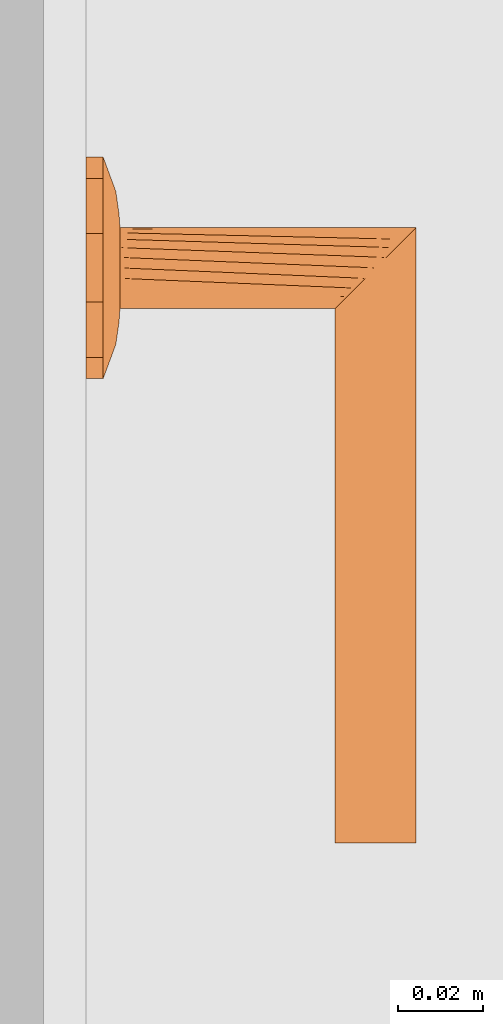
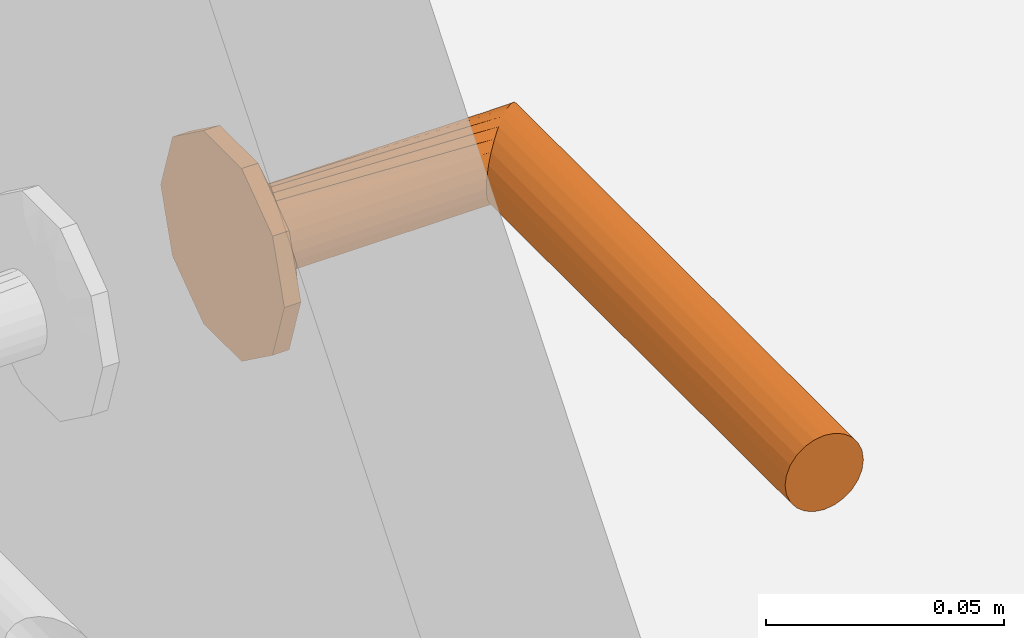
# One storey, part 106 of 125: 1 proxy.
"""IFC2X3 building model written with IfcOpenShell, lengths in millimetres."""

from ifc_helpers import new_model, entity, si_unit, converted_unit, direction, frame, origin, place, context, subcontext, project, spatial, faceted_brep, source, transform, mapped, material, type_object, type_shapes, element, save


model = new_model("IFC2X3")

# Units and contexts
model_context = context("Model", 3, precision=0.01, world=origin(), true_north=direction((6.123233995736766e-17, 1.0)))
plan_context = context("Plan", 3, precision=0.01, world=origin(), true_north=direction((6.123233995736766e-17, 1.0)))
body_context = subcontext(model_context, "Body", "Model", "MODEL_VIEW")
ifc_project = project(units=[si_unit("LENGTHUNIT", "METRE", prefix="MILLI"), converted_unit("PLANEANGLEUNIT", "DEGREE", entity("IfcPlaneAngleMeasure", 0.017453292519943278), si_unit("PLANEANGLEUNIT", "RADIAN"), dimensions=[0, 0, 0, 0, 0, 0, 0]), si_unit("AREAUNIT", "SQUARE_METRE")], contexts=[model_context, plan_context])

# Site, building, storey, space
site_placement = place(None, origin())
site = spatial("IfcSite", under=ifc_project, at=site_placement, Name="Default", CompositionType="ELEMENT")
building_placement = place(site_placement, origin())
building = spatial("IfcBuilding", under=site, at=building_placement, CompositionType="ELEMENT")
storey_placement = place(building_placement, frame((0.0, 0.0, 3125.0)))
storey = spatial("IfcBuildingStorey", under=building, at=storey_placement, Name="2K", CompositionType="ELEMENT", Elevation=3125.0)
space_placement = place(storey_placement, origin())
space = spatial("IfcSpace", under=storey, at=space_placement, Name="2-1.3", CompositionType="ELEMENT", InteriorOrExteriorSpace="INTERNAL")

# Proxy
ifc_material = material(Name="<Unnamed>")
building_element_proxy_type = type_object("IfcBuildingElementProxyType", Name="Door-handle_Lever_ABLOY_INOXI_3-19ss-002_RT:Default", PredefinedType="NOTDEFINED", material=ifc_material)
shared_shape = source(origin(), body_context, "Body", "Brep", [
    faceted_brep([(0.0, 0.0, 0.0), (21.034441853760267, -15.282416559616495, 0.0), (14.534441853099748, -20.00494299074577, 0.0), (8.034441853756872, -24.72746942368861, 0.0), (0.0, -24.72746942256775, 0.0), (23.51722092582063, -7.6412082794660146, 0.0), (26.0, 0.0, 0.0), (-8.034441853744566, -24.727469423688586, 0.0), (-14.534441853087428, -20.00494299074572, 0.0), (-21.03444185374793, -15.282416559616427, 0.0), (-23.517220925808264, -7.641208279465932, 0.0), (-26.0, 0.0, 0.0), (-23.517220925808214, 7.641208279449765, 0.0), (23.517220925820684, 7.641208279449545, 0.0), (21.034441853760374, 15.282416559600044, 0.0), (14.53444185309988, 20.00494299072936, 0.0), (8.034441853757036, 24.72746942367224, 0.0), (-21.034441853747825, 15.282416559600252, 0.0), (-14.53444185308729, 20.004942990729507, 0.0), (-8.0344418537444, 24.72746942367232, 0.0), (0.0, 24.72746942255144, 0.0), (0.0, 0.0, 8.0), (4.7500000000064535, -8.227241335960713, 8.0), (5.937500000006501, -6.170431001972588, 8.0), (7.125000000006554, -4.113620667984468, 8.0), (8.312500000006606, -2.0568103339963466, 8.0), (9.500000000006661, 0.0, 8.0), (8.312500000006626, 2.056810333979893, 8.0), (2.3750000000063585, -8.227241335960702, 8.0), (0.0, -8.227241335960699, 8.0), (-2.3749999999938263, -8.227241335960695, 8.0), (-4.749999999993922, -8.227241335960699, 8.0), (-5.937499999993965, -6.170431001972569, 8.0), (-7.124999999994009, -4.113620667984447, 8.0), (-8.312499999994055, -2.056810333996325, 8.0), (-9.499999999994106, 0.0, 8.0), (7.125000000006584, 4.113620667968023, 8.0), (5.937500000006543, 6.170431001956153, 8.0), (4.750000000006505, 8.227241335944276, 8.0), (2.3750000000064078, 8.22724133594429, 8.0), (-8.31249999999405, 2.0568103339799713, 8.0), (-7.12499999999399, 4.113620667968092, 8.0), (-5.9374999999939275, 6.170431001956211, 8.0), (-4.74999999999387, 8.227241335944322, 8.0), (0.0, 8.227241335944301, 8.0), (-2.374999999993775, 8.227241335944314, 8.0), (-22.488765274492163, -10.806469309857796, 4.030771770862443), (-16.663919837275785, -7.932665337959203, 6.877259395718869), (-20.643071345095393, -6.292822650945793, 5.929480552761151), (-12.50457926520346, -5.179566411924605, 7.774932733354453), (-16.764060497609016, -3.820257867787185, 7.1747985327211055), (-9.071726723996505, -10.311606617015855, 7.7520782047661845), (-11.963426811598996, -8.625290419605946, 7.618343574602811), (-11.979136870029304, -13.678312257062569, 6.945778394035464), (5.7585542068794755, -20.96753300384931, 5.871476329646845), (0.0, -24.72746942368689, 4.030771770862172), (8.03444185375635, -24.727469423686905, 4.030771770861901), (16.66391982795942, -7.932665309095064, 6.877259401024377), (22.488765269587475, -10.806469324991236, 4.03077177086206), (20.64307133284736, -6.29282258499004, 5.929480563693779), (14.534441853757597, -20.004942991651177, 4.030771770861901), (9.499431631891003, -18.64368355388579, 6.154325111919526), (-15.783149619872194, -11.991003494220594, 6.50080018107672), (-21.034441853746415, -15.282416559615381, 4.030771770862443), (-14.53444185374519, -20.00494299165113, 4.030771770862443), (-23.012042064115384, 0.0, 5.135401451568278), (-23.943088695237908, -6.330522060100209, 4.030771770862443), (11.96342678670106, -8.62529049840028, 7.618343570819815), (12.504579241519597, -5.179566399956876, 7.774932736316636), (16.764060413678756, -3.8202578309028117, 7.17479855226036), (15.783149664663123, -11.991003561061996, 6.50080015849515), (17.985351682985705, 0.0, 6.993737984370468), (23.012042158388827, 0.0, 5.135401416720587), (8.661516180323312, -10.478936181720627, 7.768126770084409), (-8.03444185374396, -24.727469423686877, 4.030771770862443), (-3.3573143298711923, -21.197247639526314, 5.971427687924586), (-9.941915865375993, -17.061976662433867, 6.522757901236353), (-5.973257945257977, -16.430139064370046, 7.110979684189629), (-7.711266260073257, -12.760344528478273, 7.594456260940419), (11.979136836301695, -13.678312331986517, 6.945778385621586), (7.511307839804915, -13.358932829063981, 7.529187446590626), (5.953298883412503, -16.50608604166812, 7.096344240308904), (-1.5654593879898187, -15.307443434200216, 7.519134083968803), (-7.784980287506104, -20.476295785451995, 5.812837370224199), (2.8135289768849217, -17.76392260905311, 6.993737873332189), (-17.98535168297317, 0.0, 6.993737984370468), (-26.0, 0.0, 4.030771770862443), (-23.51722092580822, -7.641208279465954, 4.030771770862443), (23.943088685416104, -6.33052209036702, 4.030771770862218), (24.308823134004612, -5.204907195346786, 4.030771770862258), (26.0, 0.0, 4.030771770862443), (21.03444185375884, -15.282416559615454, 4.030771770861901), (22.617646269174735, -10.40981439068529, 4.030771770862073), (22.488765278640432, 10.806469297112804, 4.030771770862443), (16.66391984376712, 7.932665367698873, 6.877259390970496), (20.643071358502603, 6.292822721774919, 5.929480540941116), (12.504579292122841, 5.179566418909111, 7.774932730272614), (16.764060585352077, 3.8202579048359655, 7.174798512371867), (9.07172672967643, 10.31160659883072, 7.752078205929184), (11.963426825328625, 8.62529034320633, 7.618343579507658), (11.979136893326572, 13.67831220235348, 6.9457784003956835), (-5.758554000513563, 20.96753314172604, 5.8714763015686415), (0.0, 24.72746942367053, 4.030771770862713), (-8.03444185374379, 24.72746942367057, 4.030771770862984), (-16.663919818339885, 7.932665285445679, 6.877259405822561), (-22.48876526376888, 10.806469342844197, 4.030771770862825), (-20.643071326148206, 6.2928225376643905, 5.929480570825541), (-14.534441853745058, 20.004942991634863, 4.030771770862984), (-9.499431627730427, 18.643683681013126, 6.154325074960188), (15.783149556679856, 11.991003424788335, 6.5008002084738), (21.03444185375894, 15.282416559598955, 4.030771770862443), (14.534441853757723, 20.004942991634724, 4.030771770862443), (23.943088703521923, 6.330522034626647, 4.030771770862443), (-11.96342675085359, 8.625290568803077, 7.618343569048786), (-12.504579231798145, 5.179566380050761, 7.77493273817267), (-16.764060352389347, 3.820257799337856, 7.174798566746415), (-15.78314967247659, 11.991003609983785, 6.500800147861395), (-8.661516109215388, 10.478936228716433, 7.768126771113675), (8.034441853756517, 24.727469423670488, 4.030771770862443), (3.3573144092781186, 21.197247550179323, 5.971427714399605), (9.941915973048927, 17.061976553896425, 6.522757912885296), (5.9732581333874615, 16.430139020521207, 7.110979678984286), (7.711266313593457, 12.760344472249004, 7.5944562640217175), (-11.979136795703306, 13.678312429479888, 6.945778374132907), (-7.511307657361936, 13.358932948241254, 7.5291874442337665), (-5.9532988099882, 16.50608628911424, 7.096344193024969), (1.5654596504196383, 15.3074431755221, 7.519134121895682), (7.784980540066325, 20.476295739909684, 5.812837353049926), (-2.81352881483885, 17.76392263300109, 6.993737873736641), (23.51722092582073, 7.6412082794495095, 4.030771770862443), (-23.94308867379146, 6.330522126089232, 4.030771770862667), (-24.308823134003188, 5.20490719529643, 4.030771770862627), (-21.034441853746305, 15.282416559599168, 4.030771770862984), (-22.617646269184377, 10.409814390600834, 4.0307717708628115)], [[[0, 1, 2]], [[0, 2, 3]], [[0, 3, 4]], [[0, 5, 1]], [[0, 6, 5]], [[0, 4, 7]], [[0, 7, 8]], [[0, 8, 9]], [[0, 9, 10]], [[0, 10, 11]], [[0, 11, 12]], [[0, 13, 6]], [[0, 14, 13]], [[0, 15, 14]], [[0, 16, 15]], [[0, 12, 17]], [[0, 17, 18]], [[0, 18, 19]], [[0, 19, 20]], [[0, 20, 16]], [[21, 22, 23]], [[21, 23, 24]], [[21, 24, 25]], [[21, 25, 26]], [[21, 26, 27]], [[21, 28, 22]], [[21, 29, 28]], [[21, 30, 29]], [[21, 31, 30]], [[21, 32, 31]], [[21, 33, 32]], [[21, 34, 33]], [[21, 35, 34]], [[21, 27, 36]], [[21, 36, 37]], [[21, 37, 38]], [[21, 38, 39]], [[21, 40, 35]], [[21, 41, 40]], [[21, 42, 41]], [[21, 43, 42]], [[21, 39, 44]], [[21, 44, 45]], [[21, 45, 43]], [[46, 47, 48]], [[47, 49, 50]], [[49, 33, 34]], [[51, 52, 53]], [[49, 52, 33]], [[48, 47, 50]], [[54, 55, 56]], [[57, 58, 59]], [[56, 60, 61]], [[62, 63, 64]], [[65, 66, 48]], [[67, 57, 68]], [[68, 69, 25]], [[57, 67, 70]], [[69, 26, 25]], [[62, 53, 52]], [[71, 69, 72]], [[67, 23, 73]], [[74, 55, 75]], [[76, 77, 78]], [[79, 60, 70]], [[69, 59, 72]], [[80, 81, 61]], [[77, 30, 78]], [[82, 30, 77]], [[28, 80, 22]], [[77, 83, 75]], [[75, 82, 77]], [[55, 84, 75]], [[85, 50, 35]], [[24, 68, 25]], [[82, 84, 29]], [[84, 82, 75]], [[31, 78, 30]], [[82, 29, 30]], [[34, 35, 50]], [[52, 49, 47]], [[62, 52, 47]], [[34, 50, 49]], [[53, 78, 51]], [[32, 33, 52]], [[85, 65, 50]], [[66, 65, 86]], [[67, 68, 24]], [[77, 76, 83]], [[65, 48, 50]], [[63, 62, 46]], [[48, 66, 87, 46]], [[62, 47, 46]], [[69, 68, 57]], [[80, 73, 22]], [[70, 67, 79]], [[67, 24, 23]], [[72, 88, 89, 90]], [[69, 71, 26]], [[59, 69, 57]], [[61, 60, 79]], [[62, 64, 53]], [[91, 58, 70]], [[72, 59, 88]], [[57, 70, 58]], [[59, 58, 92]], [[80, 61, 79]], [[91, 70, 60]], [[61, 81, 54]], [[73, 80, 79]], [[28, 84, 81]], [[67, 73, 79]], [[29, 84, 28]], [[22, 73, 23]], [[51, 31, 32]], [[76, 78, 53]], [[53, 64, 76]], [[83, 64, 74]], [[64, 83, 76]], [[75, 83, 74]], [[31, 51, 78]], [[52, 51, 32]], [[28, 81, 80]], [[54, 81, 84]], [[55, 54, 84]], [[61, 54, 56]], [[93, 94, 95]], [[94, 96, 97]], [[96, 36, 27]], [[98, 99, 100]], [[96, 99, 36]], [[95, 94, 97]], [[101, 102, 103]], [[104, 105, 106]], [[103, 107, 108]], [[109, 110, 111]], [[72, 112, 95]], [[113, 104, 114]], [[114, 115, 40]], [[104, 113, 116]], [[115, 35, 40]], [[109, 100, 99]], [[85, 115, 65]], [[113, 42, 117]], [[118, 102, 119]], [[120, 121, 122]], [[123, 107, 116]], [[115, 106, 65]], [[124, 125, 108]], [[121, 39, 122]], [[126, 39, 121]], [[45, 124, 43]], [[121, 127, 119]], [[119, 126, 121]], [[102, 128, 119]], [[71, 97, 26]], [[41, 114, 40]], [[126, 128, 44]], [[128, 126, 119]], [[38, 122, 39]], [[126, 44, 39]], [[27, 26, 97]], [[99, 96, 94]], [[109, 99, 94]], [[27, 97, 96]], [[100, 122, 98]], [[37, 36, 99]], [[71, 72, 97]], [[112, 72, 90]], [[113, 114, 41]], [[121, 120, 127]], [[72, 95, 97]], [[110, 109, 93]], [[95, 112, 129, 93]], [[109, 94, 93]], [[115, 114, 104]], [[124, 117, 43]], [[116, 113, 123]], [[113, 41, 42]], [[65, 130, 131, 86]], [[115, 85, 35]], [[106, 115, 104]], [[108, 107, 123]], [[109, 111, 100]], [[132, 105, 116]], [[65, 106, 130]], [[104, 116, 105]], [[106, 105, 133]], [[124, 108, 123]], [[132, 116, 107]], [[108, 125, 101]], [[117, 124, 123]], [[45, 128, 125]], [[113, 117, 123]], [[44, 128, 45]], [[43, 117, 42]], [[98, 38, 37]], [[120, 122, 100]], [[100, 111, 120]], [[127, 111, 118]], [[111, 127, 120]], [[119, 127, 118]], [[38, 98, 122]], [[99, 98, 37]], [[45, 125, 124]], [[101, 125, 128]], [[102, 101, 128]], [[108, 101, 103]], [[7, 74, 64, 63, 9, 8]], [[10, 9, 63, 46, 87, 66, 86, 11]], [[6, 90, 89, 88, 92, 1, 5]], [[1, 58, 91]], [[74, 7, 4, 3, 56, 55]], [[60, 56, 3, 2, 1, 91]], [[1, 92, 58]], [[14, 110, 93, 129, 112, 90, 6, 13]], [[111, 110, 14, 15, 16, 118]], [[11, 86, 131, 130, 133, 17, 12]], [[17, 105, 132]], [[118, 16, 20, 19, 103, 102]], [[107, 103, 19, 18, 17, 132]], [[17, 133, 105]], [[59, 92, 88]], [[106, 133, 130]]]),
    faceted_brep([(4.7499999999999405, -8.22724133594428, 8.0), (2.4587809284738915, -9.176295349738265, 8.0), (0.0, -9.499999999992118, 8.0), (-2.4587809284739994, -9.176295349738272, 8.0), (-4.7500000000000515, -8.227241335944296, 8.0), (-6.717514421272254, -6.717514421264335, 8.0), (-8.227241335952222, -4.74999999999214, 8.0), (-9.176295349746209, -2.4587809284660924, 8.0), (-9.500000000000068, 0.0, 8.0), (-9.176295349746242, 2.458780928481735, 8.0), (-8.227241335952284, 4.750000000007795, 8.0), (-6.717514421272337, 6.717514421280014, 8.0), (-4.750000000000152, 8.227241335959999, 8.0), (-2.4587809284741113, 9.176295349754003, 8.0), (0.0, 9.500000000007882, 8.0), (2.4587809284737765, 9.176295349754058, 8.0), (4.7499999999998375, 8.227241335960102, 8.0), (6.717514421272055, 6.717514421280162, 8.0), (8.22724133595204, 4.75000000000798, 8.0), (9.17629534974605, 2.458780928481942, 8.0), (9.499999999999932, 0.0, 8.0), (9.17629534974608, -2.458780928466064, 8.0), (8.227241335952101, -4.749999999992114, 8.0), (6.717514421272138, -6.7175144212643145, 8.0), (-8.227241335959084, 4.7499999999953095, 59.772758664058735), (-6.717514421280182, 6.7175144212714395, 61.282485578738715), (-9.176295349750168, 2.458780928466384, 58.82370465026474), (-4.750000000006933, 8.227241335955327, 63.25000000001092), (-2.4587809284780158, 9.176295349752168, 65.54121907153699), (-9.500000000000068, 0.0, 58.50000000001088), (0.0, 9.50000000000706, 68.0), (4.750000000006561, 8.227241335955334, 72.75000000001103), (2.4587809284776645, 9.17629534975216, 70.45878092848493), (6.717514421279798, 6.7175144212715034, 74.71751442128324), (8.22724133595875, 4.749999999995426, 76.22724133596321), (9.17629534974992, 2.458780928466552, 77.17629534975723), (9.499999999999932, 0.0, 77.50000000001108), (9.176295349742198, -2.4587809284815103, 77.1762953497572), (8.227241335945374, -4.750000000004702, 76.22724133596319), (6.7175144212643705, -6.717514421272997, 74.7175144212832), (4.749999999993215, -8.227241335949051, 72.75000000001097), (2.4587809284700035, -9.17629534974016, 70.45878092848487), (0.0, -9.49999999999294, 68.0), (-2.4587809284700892, -9.176295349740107, 65.54121907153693), (-4.749999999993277, -8.227241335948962, 63.250000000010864), (-6.717514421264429, -6.717514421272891, 61.282485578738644), (-9.176295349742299, -2.458780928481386, 58.8237046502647), (-8.227241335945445, -4.750000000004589, 59.77275866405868), (-135.0, -9.176295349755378, 70.4587809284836), (-135.0, -8.227241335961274, 72.75000000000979), (-135.0, -6.717514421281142, 74.71751442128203), (-135.0, -4.750000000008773, 76.22724133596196), (-135.0, -2.4587809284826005, 77.17629534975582), (-135.0, 0.0, 77.5000000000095), (-135.0, 2.4587809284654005, 77.17629534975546), (-135.0, 4.749999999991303, 76.22724133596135), (-135.0, 6.717514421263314, 74.71751442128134), (-135.0, 8.227241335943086, 72.75000000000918), (-135.0, 9.17629534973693, 70.45878092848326), (-135.0, 9.499999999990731, 68.0), (-135.0, 9.17629534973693, 65.54121907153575), (-135.0, 8.227241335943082, 63.250000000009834), (-135.0, 6.717514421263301, 61.28248557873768), (-135.0, 4.749999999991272, 59.772758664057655), (-135.0, 2.458780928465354, 58.823704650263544), (-135.0, 0.0, 58.50000000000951), (-135.0, -2.458780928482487, 58.82370465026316), (-135.0, -4.750000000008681, 59.772758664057), (-135.0, -6.7175144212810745, 61.28248557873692), (-135.0, -8.227241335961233, 63.25000000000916), (-135.0, -9.176295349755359, 65.54121907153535), (-135.0, -9.500000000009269, 68.0)], [[[0, 1, 2, 3, 4, 5, 6, 7, 8, 9, 10, 11, 12, 13, 14, 15, 16, 17, 18, 19, 20, 21, 22, 23]], [[24, 25, 11, 10]], [[26, 24, 10, 9]], [[14, 27, 28]], [[13, 27, 14]], [[25, 27, 13]], [[29, 26, 9, 8]], [[12, 11, 25]], [[25, 13, 12]], [[28, 30, 15]], [[31, 17, 32]], [[33, 18, 31]], [[19, 34, 35]], [[33, 34, 19]], [[20, 19, 35, 36]], [[16, 15, 30]], [[14, 28, 15]], [[19, 18, 33]], [[17, 31, 18]], [[17, 16, 32]], [[30, 32, 16]], [[20, 36, 37, 21]], [[38, 21, 37]], [[22, 39, 40]], [[38, 39, 21]], [[23, 40, 41]], [[39, 22, 21]], [[1, 42, 43]], [[42, 1, 0]], [[23, 41, 0]], [[23, 22, 40]], [[41, 42, 0]], [[44, 45, 3]], [[43, 44, 2]], [[46, 29, 8, 7]], [[47, 46, 7, 6]], [[45, 47, 6, 5]], [[45, 4, 3]], [[3, 2, 44]], [[5, 4, 45]], [[43, 2, 1]], [[48, 49, 50, 51, 52, 53, 54, 55, 56, 57, 58, 59, 60, 61, 62, 63, 64, 65, 66, 67, 68, 69, 70, 71]], [[64, 63, 24, 26]], [[65, 64, 26, 29]], [[61, 60, 28, 27]], [[62, 61, 27, 25]], [[63, 62, 25, 24]], [[59, 30, 28, 60]], [[57, 56, 33, 31]], [[58, 57, 31, 32]], [[54, 53, 36, 35]], [[55, 54, 35, 34]], [[56, 55, 34, 33]], [[32, 30, 59, 58]], [[52, 51, 38, 37]], [[53, 52, 37, 36]], [[49, 48, 41, 40]], [[50, 49, 40, 39]], [[51, 50, 39, 38]], [[42, 41, 48, 71]], [[69, 68, 45, 44]], [[70, 69, 44, 43]], [[66, 65, 29, 46]], [[67, 66, 46, 47]], [[68, 67, 47, 45]], [[42, 71, 70, 43]]]),
])
type_shapes(building_element_proxy_type, [shared_shape])
proxy_placement = place(space_placement, frame((-86.01000000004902, 12859.0, 1000.0), z_axis=(1.0, 0.0, 0.0), x_axis=(0.0, 1.0, 0.0)))
element("IfcBuildingElementProxy", 1, at=proxy_placement, inside=space, type_object=building_element_proxy_type, material=ifc_material, Name="Door-handle_Lever_ABLOY_INOXI_3-19ss-002_RT:Default", ObjectType="Door-handle_Lever_ABLOY_INOXI_3-19ss-002_RT:Default", context=body_context, shape_type="MappedRepresentation", body=[
    mapped(shared_shape, transform((0.0, 0.0, 0.0), scale=1.0)),
])

save(model, "model.ifc")
